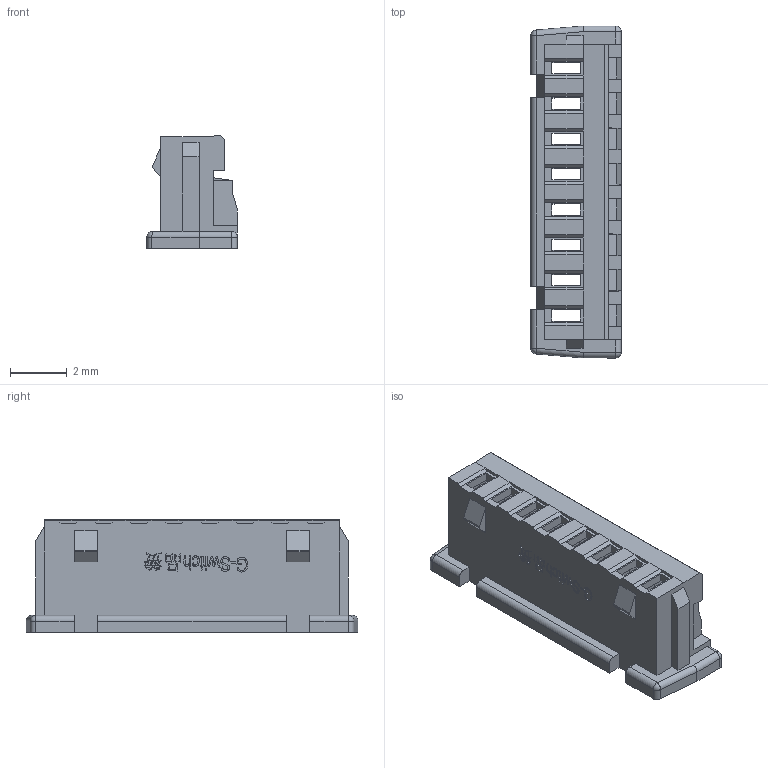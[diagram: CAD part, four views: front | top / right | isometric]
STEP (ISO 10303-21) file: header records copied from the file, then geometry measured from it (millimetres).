
FILE_DESCRIPTION (( 'STEP AP203' ), '1' );
FILE_NAME ('GT-A1251HM-108W01.STEP', '2024-09-25T10:16:54', ( '' ), ( '' ), 'SwSTEP 2.0', 'SolidWorks 2020', '' );
FILE_SCHEMA (( 'CONFIG_CONTROL_DESIGN' ));
Length unit declared in the file: millimetre
Products named in the file (1): GT-A1251HM-108W01
Bounding box: 3.2 x 11.75 x 3.99 mm (x, y, z)
Volume: 53.7 mm3; surface area: 348.2 mm2
Topology: 1 solids, 1 shells, 683 faces, 1935 edges, 1256 vertices
Faces by surface type: plane 593, bspline 73, cylinder 13, sphere 4
Entity records: 25258 total; most frequent: CARTESIAN_POINT 7968, ORIENTED_EDGE 3862, DIRECTION 3027, EDGE_CURVE 1931, VECTOR 1761, LINE 1761, VERTEX_POINT 1256, EDGE_LOOP 721
